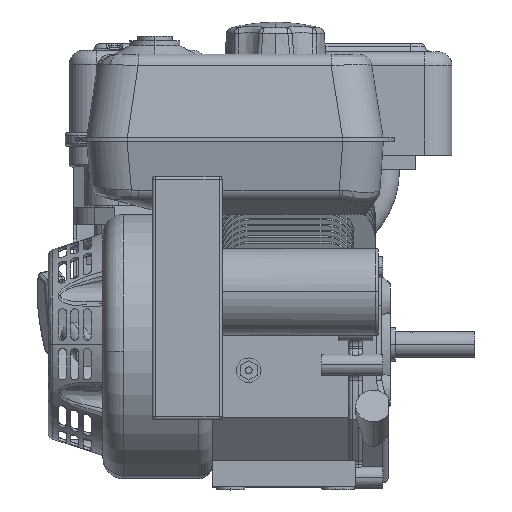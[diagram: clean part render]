
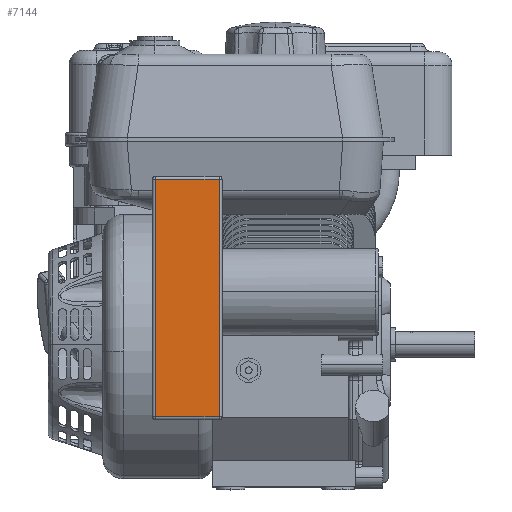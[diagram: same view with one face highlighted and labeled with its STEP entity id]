
A CAD part, top view. The second image highlights one B-rep face of the part: STEP entity #7144.
In plain terms, the highlighted planar face has unit normal (0, 0, 1).
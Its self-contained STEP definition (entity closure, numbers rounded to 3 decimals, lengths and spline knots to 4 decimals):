
#2451 = EDGE_LOOP ( 'NONE', ( #52701, #52703, #52705, #52707 ) ) ;
#4592 = LINE ( 'NONE', #7226, #4612 ) ;
#4601 = LINE ( 'NONE', #7256, #4607 ) ;
#4607 = VECTOR ( 'NONE', #7259, 39.3701 ) ;
#4609 = LINE ( 'NONE', #7264, #4616 ) ;
#4612 = VECTOR ( 'NONE', #7261, 39.3701 ) ;
#4614 = LINE ( 'NONE', #7268, #4620 ) ;
#4616 = VECTOR ( 'NONE', #7266, 39.3701 ) ;
#4620 = VECTOR ( 'NONE', #7270, 39.3701 ) ;
#7144 = ADVANCED_FACE ( 'NONE', ( #52314 ), #54030, .T. ) ;
#7226 = CARTESIAN_POINT ( 'NONE',  ( -4.8425, 4.742, 7.5 ) ) ;
#7256 = CARTESIAN_POINT ( 'NONE',  ( -4.9225, 4.822, 7.5 ) ) ;
#7259 = DIRECTION ( 'NONE',  ( 0., 1., 0. ) ) ;
#7261 = DIRECTION ( 'NONE',  ( -1., 0., 0. ) ) ;
#7264 = CARTESIAN_POINT ( 'NONE',  ( -6.7625, -2.178, 7.5 ) ) ;
#7266 = DIRECTION ( 'NONE',  ( 0., -1., 0. ) ) ;
#7268 = CARTESIAN_POINT ( 'NONE',  ( -4.8425, -2.098, 7.5 ) ) ;
#7270 = DIRECTION ( 'NONE',  ( 1., 0., 0. ) ) ;
#22087 = AXIS2_PLACEMENT_3D ( 'NONE', #54023, #54032, #54033 ) ;
#37281 = EDGE_CURVE ( 'NONE', #46545, #46546, #4601, .T. ) ;
#37284 = EDGE_CURVE ( 'NONE', #46546, #46551, #4592, .T. ) ;
#37288 = EDGE_CURVE ( 'NONE', #46551, #46552, #4609, .T. ) ;
#37291 = EDGE_CURVE ( 'NONE', #46552, #46545, #4614, .T. ) ;
#46545 = VERTEX_POINT ( 'NONE', #61915 ) ;
#46546 = VERTEX_POINT ( 'NONE', #61916 ) ;
#46551 = VERTEX_POINT ( 'NONE', #61926 ) ;
#46552 = VERTEX_POINT ( 'NONE', #61928 ) ;
#52314 = FACE_OUTER_BOUND ( 'NONE', #2451, .T. ) ;
#52701 = ORIENTED_EDGE ( 'NONE', *, *, #37281, .T. ) ;
#52703 = ORIENTED_EDGE ( 'NONE', *, *, #37284, .T. ) ;
#52705 = ORIENTED_EDGE ( 'NONE', *, *, #37288, .T. ) ;
#52707 = ORIENTED_EDGE ( 'NONE', *, *, #37291, .T. ) ;
#54023 = CARTESIAN_POINT ( 'NONE',  ( -4.8425, -2.178, 7.5 ) ) ;
#54030 = PLANE ( 'NONE',  #22087 ) ;
#54032 = DIRECTION ( 'NONE',  ( 0., 0., 1. ) ) ;
#54033 = DIRECTION ( 'NONE',  ( 1., 0., 0. ) ) ;
#61915 = CARTESIAN_POINT ( 'NONE',  ( -4.9225, -2.098, 7.5 ) ) ;
#61916 = CARTESIAN_POINT ( 'NONE',  ( -4.9225, 4.742, 7.5 ) ) ;
#61926 = CARTESIAN_POINT ( 'NONE',  ( -6.7625, 4.742, 7.5 ) ) ;
#61928 = CARTESIAN_POINT ( 'NONE',  ( -6.7625, -2.098, 7.5 ) ) ;
